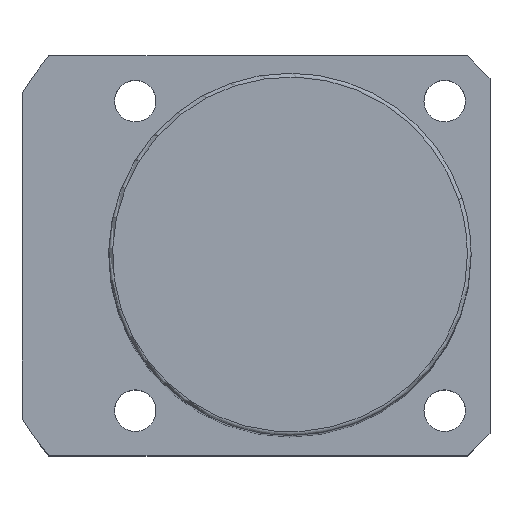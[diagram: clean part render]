
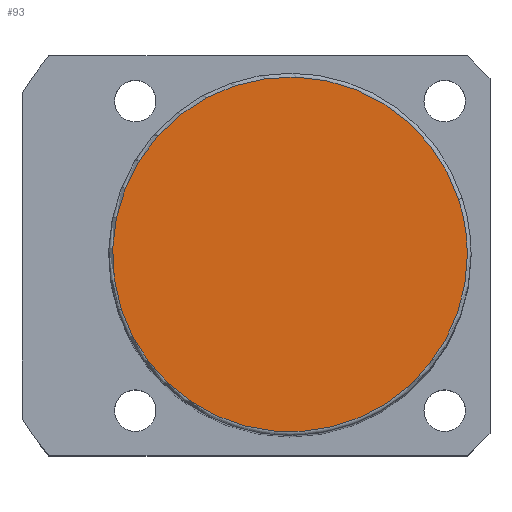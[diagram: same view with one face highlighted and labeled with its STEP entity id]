
A CAD part, top view. The second image highlights one B-rep face of the part: STEP entity #93.
In plain terms, the highlighted planar face has unit normal (0, 0, 1).
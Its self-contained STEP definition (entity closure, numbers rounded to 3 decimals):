
#16=CARTESIAN_POINT('',(22.35,7.262,124.0));
#17=VERTEX_POINT('',#16);
#45=CARTESIAN_POINT('',(-22.35,-7.262,124.0));
#46=VERTEX_POINT('',#45);
#54=CARTESIAN_POINT('',(0.0,0.0,124.0));
#55=DIRECTION('',(0.0,0.0,1.0));
#56=DIRECTION('',(1.0,0.0,0.0));
#57=AXIS2_PLACEMENT_3D('',#54,#55,#56);
#58=CIRCLE('',#57,23.5);
#59=EDGE_CURVE('no 890',#17,#46,#58,.T.);
#69=CARTESIAN_POINT('',(23.5,0.0,124.0));
#70=VERTEX_POINT('',#69);
#71=CARTESIAN_POINT('',(0.0,0.0,124.0));
#72=DIRECTION('',(0.0,0.0,1.0));
#73=DIRECTION('',(1.0,0.0,0.0));
#74=AXIS2_PLACEMENT_3D('',#71,#72,#73);
#75=CIRCLE('',#74,23.5);
#76=EDGE_CURVE('no 899',#70,#17,#75,.T.);
#77=ORIENTED_EDGE('',*,*,#76,.T.);
#78=ORIENTED_EDGE('',*,*,#59,.T.);
#79=CARTESIAN_POINT('',(0.0,0.0,124.0));
#80=DIRECTION('',(0.0,0.0,1.0));
#81=DIRECTION('',(1.0,0.0,0.0));
#82=AXIS2_PLACEMENT_3D('',#79,#80,#81);
#83=CIRCLE('',#82,23.5);
#84=EDGE_CURVE('no 905',#46,#70,#83,.T.);
#85=ORIENTED_EDGE('',*,*,#84,.T.);
#86=EDGE_LOOP('',(#77,#78,#85));
#87=FACE_OUTER_BOUND('',#86,.T.);
#88=CARTESIAN_POINT('',(0.0,0.0,124.0));
#89=DIRECTION('',(0.0,0.0,1.0));
#90=DIRECTION('',(1.0,0.0,0.0));
#91=AXIS2_PLACEMENT_3D('',#88,#89,#90);
#92=PLANE('',#91);
#93=ADVANCED_FACE('no 892',(#87),#92,.T.);
